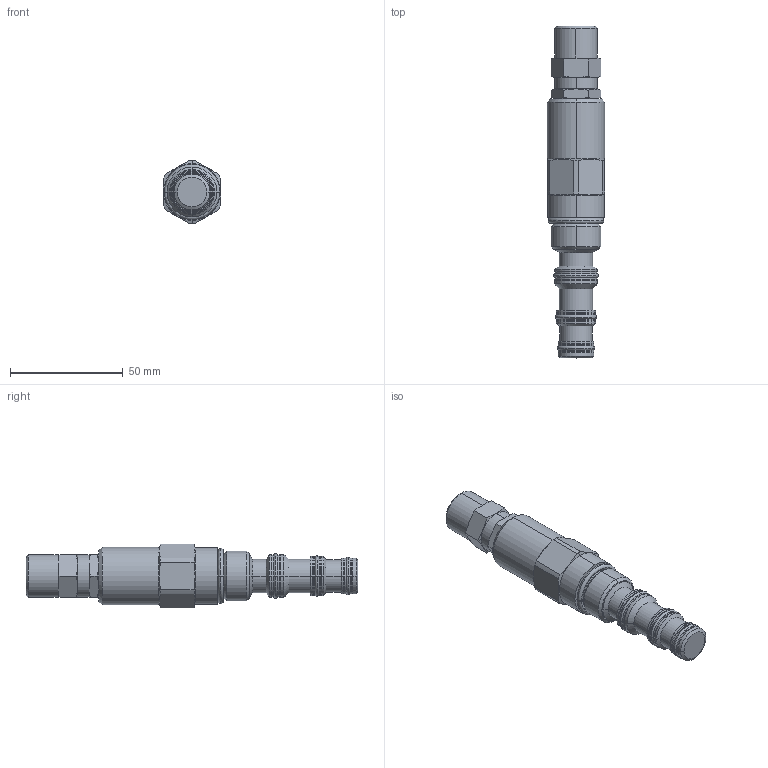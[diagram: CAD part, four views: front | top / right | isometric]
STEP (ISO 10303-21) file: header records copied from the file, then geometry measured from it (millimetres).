
FILE_DESCRIPTION((''),'2;1');
FILE_NAME('5424300_SW0003','2009-02-04T',('jcs'),(''),'PRO/ENGINEER BY PARAMETRIC TECHNOLOGY CORPORATION, 2008010','PRO/ENGINEER BY PARAMETRIC TECHNOLOGY CORPORATION, 2008010','');
FILE_SCHEMA(('CONFIG_CONTROL_DESIGN'));
Length unit declared in the file: inch
Products named in the file (1): 5424300_SW0003
Bounding box: 25.4 x 147.28 x 28.19 mm (x, y, z)
Volume: 51879.1 mm3; surface area: 13957.8 mm2
Topology: 5 solids, 5 shells, 237 faces, 498 edges, 288 vertices
Faces by surface type: cylinder 68, torus 46, cone 46, plane 45, revolution 32
Entity records: 7318 total; most frequent: CARTESIAN_POINT 2167, DIRECTION 1142, ORIENTED_EDGE 996, AXIS2_PLACEMENT_3D 499, EDGE_CURVE 498, CIRCLE 294, VERTEX_POINT 288, EDGE_LOOP 262
